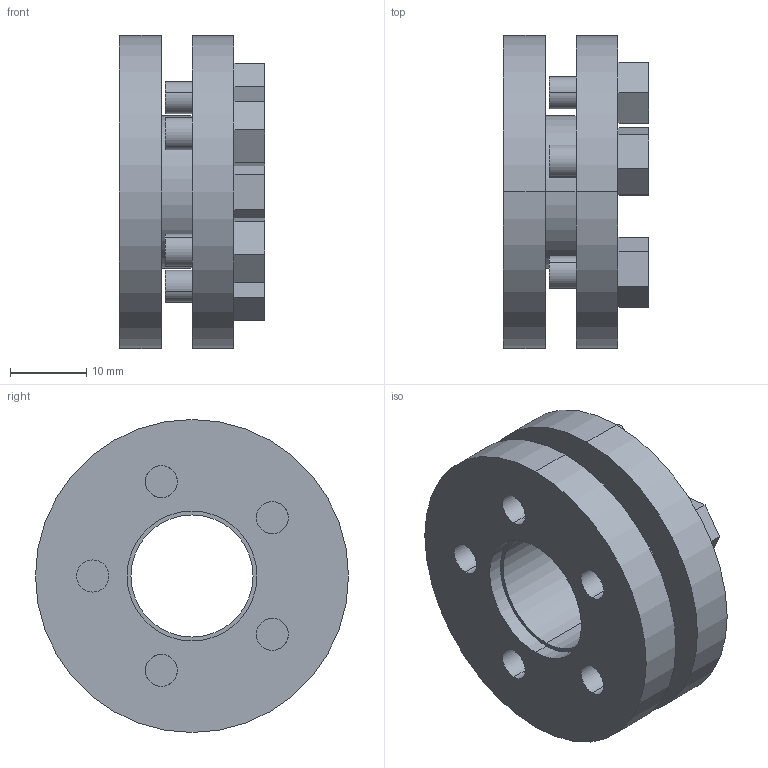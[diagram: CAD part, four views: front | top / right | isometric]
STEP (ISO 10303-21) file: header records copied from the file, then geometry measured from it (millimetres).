
FILE_DESCRIPTION (( 'STEP AP203' ), '1' );
FILE_NAME ('SSD-16.STEP', '2009-09-29T17:44:38', ( 'USER' ), ( 'HOME' ), 'SwSTEP 2.0', 'SolidWorks 2007', '' );
FILE_SCHEMA (( 'CONFIG_CONTROL_DESIGN' ));
Length unit declared in the file: millimetre
Products named in the file (1): SSD-16
Bounding box: 19 x 41 x 41 mm (x, y, z)
Volume: 13629.8 mm3; surface area: 8836.2 mm2
Topology: 6 solids, 6 shells, 93 faces, 216 edges, 144 vertices
Faces by surface type: plane 51, cylinder 42
Entity records: 2785 total; most frequent: DIRECTION 488, CARTESIAN_POINT 454, ORIENTED_EDGE 432, EDGE_CURVE 216, AXIS2_PLACEMENT_3D 178, VERTEX_POINT 144, VECTOR 132, LINE 132
